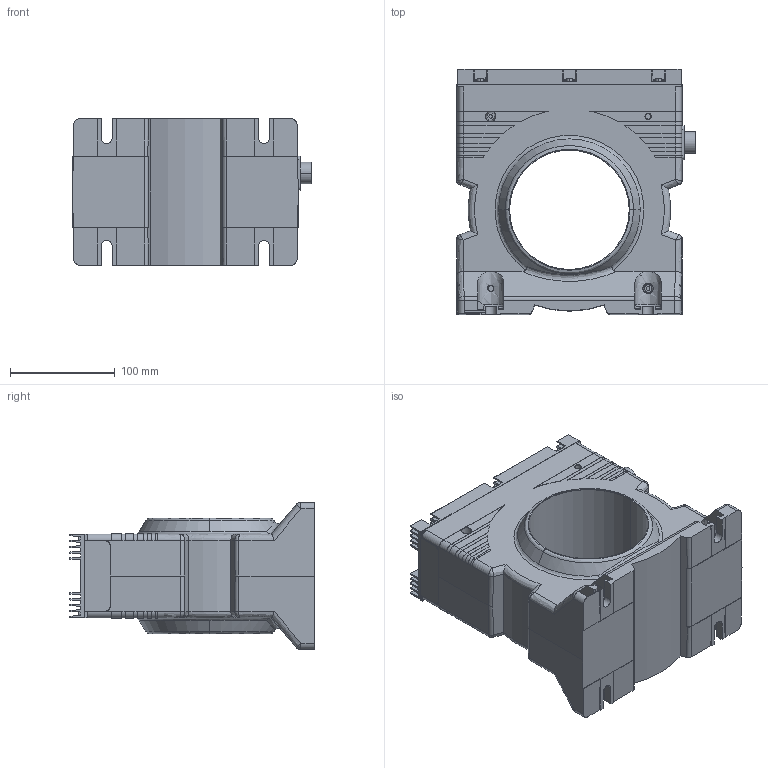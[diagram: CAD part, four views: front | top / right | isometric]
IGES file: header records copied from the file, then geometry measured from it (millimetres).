
Start section: Elysium IGES Interface
Global section: file name: C:\Documents and Settings\pmo\Desktop\LT 2000\LT 2000-S_SP45.igs; native system: CoCreate Modeling 17.00A  17-Jun-2010; preprocessor: CoCreate IGES_3D V2.2; author: Unknown; organization: Unknown; date: 20110906.130306; units: millimetre
Bounding box: 227.53 x 234 x 140 mm (x, y, z)
Volume: 3271756.5 mm3; surface area: 310471 mm2
Topology: 15 solids, 31 shells, 1170 faces, 2969 edges, 1912 vertices
Faces by surface type: bspline 1170
